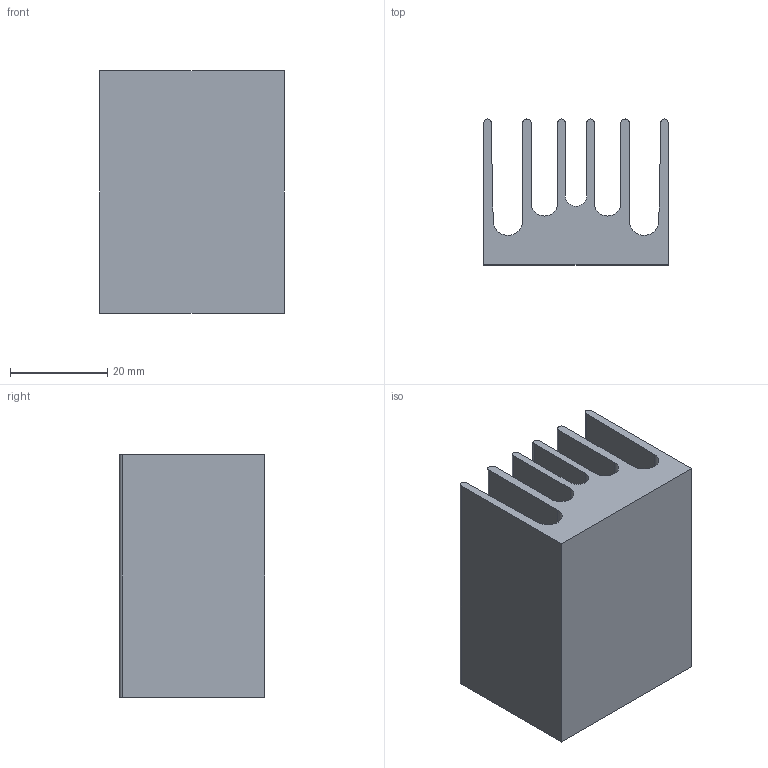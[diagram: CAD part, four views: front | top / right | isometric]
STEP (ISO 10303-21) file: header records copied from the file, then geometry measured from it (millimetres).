
FILE_DESCRIPTION (( 'STEP AP203' ), '1' );
FILE_NAME ('PR 146-50.step', '2002-10-20T23:44:23', ( 'Wolfgang Müller' ), ( 'DPS' ), 'SwSTEP 2.0', 'SolidWorks 2002264', '' );
FILE_SCHEMA (( 'CONFIG_CONTROL_DESIGN' ));
Length unit declared in the file: millimetre
Products named in the file (1): PR 146-50
Bounding box: 38 x 30 x 50 mm (x, y, z)
Volume: 27687.2 mm3; surface area: 17668.4 mm2
Topology: 1 solids, 1 shells, 26 faces, 72 edges, 48 vertices
Faces by surface type: plane 15, cylinder 11
Entity records: 915 total; most frequent: DIRECTION 148, CARTESIAN_POINT 147, ORIENTED_EDGE 144, EDGE_CURVE 72, LINE 50, VECTOR 50, AXIS2_PLACEMENT_3D 49, VERTEX_POINT 48
